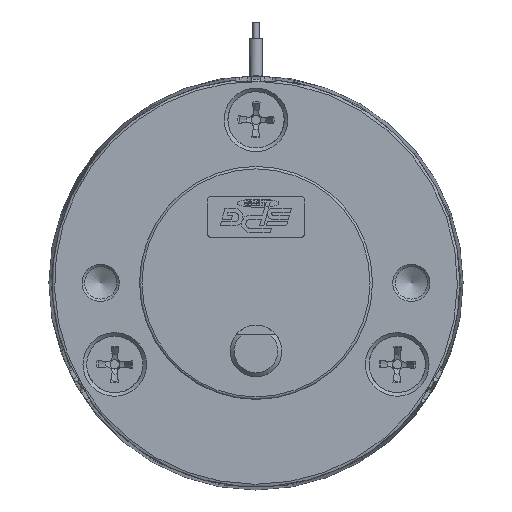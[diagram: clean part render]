
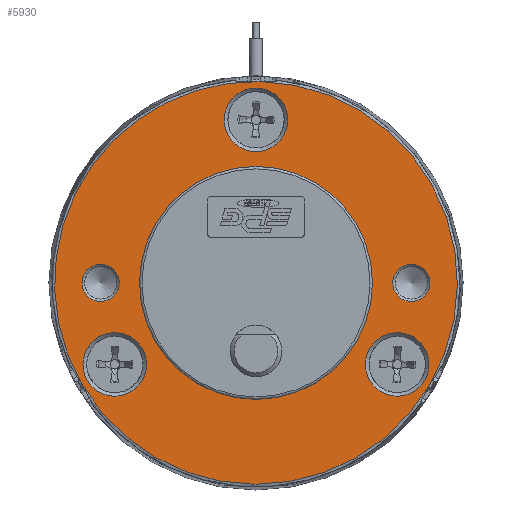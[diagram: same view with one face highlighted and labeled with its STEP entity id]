
A CAD part, front view. The second image highlights one B-rep face of the part: STEP entity #5930.
In plain terms, the highlighted planar face has unit normal (0, -1, 0).
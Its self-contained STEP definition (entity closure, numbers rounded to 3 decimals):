
#5844=CARTESIAN_POINT('',(-17.918,19.05,10.37));
#5845=VERTEX_POINT('',#5844);
#5846=CARTESIAN_POINT('',(-20.199,19.05,10.37));
#5847=DIRECTION('',(0.0,-1.0,0.0));
#5848=DIRECTION('',(-1.0,0.0,0.0));
#5849=AXIS2_PLACEMENT_3D('',#5846,#5847,#5848);
#5850=CIRCLE('',#5849,2.281);
#5851=EDGE_CURVE('',#5845,#5845,#5850,.T.);
#5856=CARTESIAN_POINT('',(-1.149,19.05,10.37));
#5857=DIRECTION('',(0.0,1.0,0.0));
#5858=DIRECTION('',(0.0,0.0,1.0));
#5859=AXIS2_PLACEMENT_3D('',#5856,#5857,#5858);
#5860=PLANE('',#5859);
#5861=CARTESIAN_POINT('',(-22.543,19.05,-1.982));
#5862=VERTEX_POINT('',#5861);
#5863=CARTESIAN_POINT('',(-1.149,19.05,10.37));
#5864=DIRECTION('',(0.0,1.0,0.0));
#5865=DIRECTION('',(0.866,0.0,0.5));
#5866=AXIS2_PLACEMENT_3D('',#5863,#5864,#5865);
#5867=CIRCLE('',#5866,24.704);
#5868=EDGE_CURVE('',#5862,#5862,#5867,.T.);
#5869=ORIENTED_EDGE('',*,*,#5868,.F.);
#5870=EDGE_LOOP('',(#5869));
#5871=FACE_OUTER_BOUND('',#5870,.T.);
#5872=CARTESIAN_POINT('',(20.182,19.05,10.37));
#5873=VERTEX_POINT('',#5872);
#5874=CARTESIAN_POINT('',(17.901,19.05,10.37));
#5875=DIRECTION('',(0.0,-1.0,0.0));
#5876=DIRECTION('',(-1.0,0.0,0.0));
#5877=AXIS2_PLACEMENT_3D('',#5874,#5875,#5876);
#5878=CIRCLE('',#5877,2.281);
#5879=EDGE_CURVE('',#5873,#5873,#5878,.T.);
#5880=ORIENTED_EDGE('',*,*,#5879,.F.);
#5881=EDGE_LOOP('',(#5880));
#5882=FACE_BOUND('',#5881,.T.);
#5883=CARTESIAN_POINT('',(13.139,19.05,10.37));
#5884=VERTEX_POINT('',#5883);
#5885=CARTESIAN_POINT('',(-1.149,19.05,10.37));
#5886=DIRECTION('',(0.0,1.0,0.0));
#5887=DIRECTION('',(-1.0,0.0,0.0));
#5888=AXIS2_PLACEMENT_3D('',#5885,#5886,#5887);
#5889=CIRCLE('',#5888,14.287);
#5890=EDGE_CURVE('',#5884,#5884,#5889,.T.);
#5891=ORIENTED_EDGE('',*,*,#5890,.T.);
#5892=EDGE_LOOP('',(#5891));
#5893=FACE_BOUND('',#5892,.T.);
#5894=CARTESIAN_POINT('',(-1.149,19.05,34.27));
#5895=VERTEX_POINT('',#5894);
#5896=CARTESIAN_POINT('',(-1.149,19.05,30.37));
#5897=DIRECTION('',(0.0,1.0,0.0));
#5898=DIRECTION('',(0.0,0.0,1.0));
#5899=AXIS2_PLACEMENT_3D('',#5896,#5897,#5898);
#5900=CIRCLE('',#5899,3.9);
#5901=EDGE_CURVE('',#5895,#5895,#5900,.T.);
#5902=ORIENTED_EDGE('',*,*,#5901,.T.);
#5903=EDGE_LOOP('',(#5902));
#5904=FACE_BOUND('',#5903,.T.);
#5905=CARTESIAN_POINT('',(-21.847,19.05,-1.58));
#5906=VERTEX_POINT('',#5905);
#5907=CARTESIAN_POINT('',(-18.469,19.05,0.37));
#5908=DIRECTION('',(0.0,1.0,0.0));
#5909=DIRECTION('',(-0.866,0.0,-0.5));
#5910=AXIS2_PLACEMENT_3D('',#5907,#5908,#5909);
#5911=CIRCLE('',#5910,3.9);
#5912=EDGE_CURVE('',#5906,#5906,#5911,.T.);
#5913=ORIENTED_EDGE('',*,*,#5912,.T.);
#5914=EDGE_LOOP('',(#5913));
#5915=FACE_BOUND('',#5914,.T.);
#5916=CARTESIAN_POINT('',(19.549,19.05,-1.58));
#5917=VERTEX_POINT('',#5916);
#5918=CARTESIAN_POINT('',(16.172,19.05,0.37));
#5919=DIRECTION('',(0.0,1.0,0.0));
#5920=DIRECTION('',(0.866,0.0,-0.5));
#5921=AXIS2_PLACEMENT_3D('',#5918,#5919,#5920);
#5922=CIRCLE('',#5921,3.9);
#5923=EDGE_CURVE('',#5917,#5917,#5922,.T.);
#5924=ORIENTED_EDGE('',*,*,#5923,.T.);
#5925=EDGE_LOOP('',(#5924));
#5926=FACE_BOUND('',#5925,.T.);
#5927=ORIENTED_EDGE('',*,*,#5851,.F.);
#5928=EDGE_LOOP('',(#5927));
#5929=FACE_BOUND('',#5928,.T.);
#5930=ADVANCED_FACE('',(#5871,#5882,#5893,#5904,#5915,#5926,#5929),#5860,.F.);
